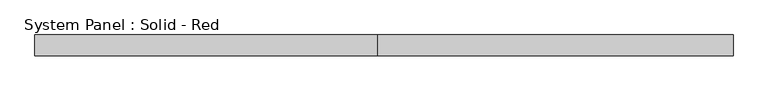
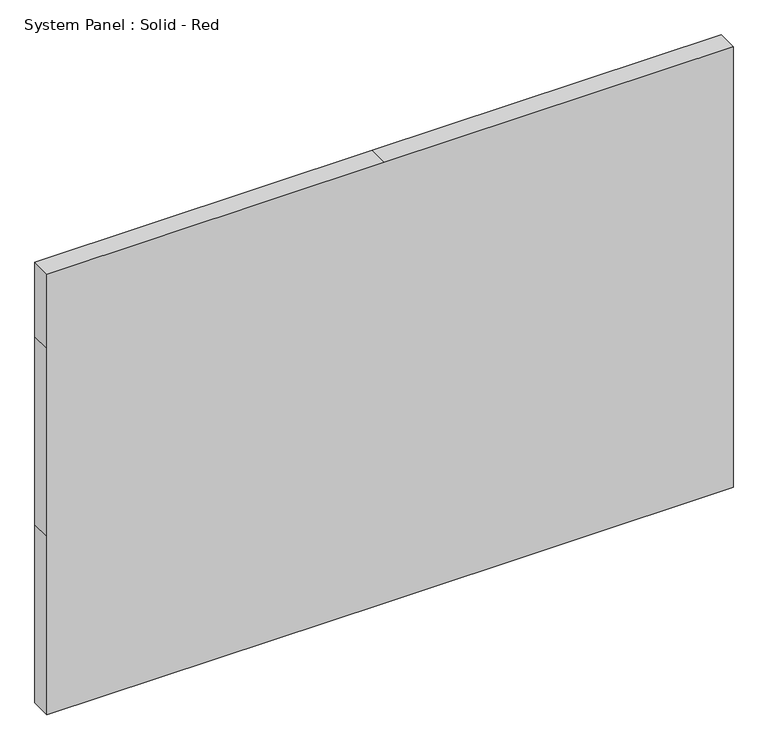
"""IFC4 building model written with IfcOpenShell, lengths in millimetres: plate geometry, System Panel : Solid - Red."""

import ifcopenshell
import ifcopenshell.guid

model = None  # the IFC model being written
_history = None  # IfcOwnerHistory: only IFC2X3 demands one
_inside = {}  # id of a spatial element -> (the spatial element, [elements in it])
_under = {}  # id of a project, library or spatial element -> (it, [spatial elements below it])
_declared = {}  # id of a project -> (the project, [libraries it declares])
_typed = {}  # id of a type object -> (the type object, [elements of that type])
_made_of = {}  # id of a material, layer set ... -> (it, [elements and type objects made of it])


def new_model(schema):
    """Start an empty IFC model of exactly this schema.

    Asked for "IFC4X3", IfcOpenShell would pick the latest addendum, in which some entities
    have other attributes; the version numbers below select the first issue.
    IFC2X3 requires an IfcOwnerHistory on every rooted entity: one is made here for all.
    """
    global model, _history
    if schema == "IFC4X3":
        model = ifcopenshell.file(schema_version=(4, 3, 0, 0))
    else:
        model = ifcopenshell.file(schema=schema)
    _inside.clear()
    _under.clear()
    _declared.clear()
    _typed.clear()
    _made_of.clear()
    _history = None
    if model.schema == "IFC2X3":
        org = make("IfcOrganization", Name="unknown")
        user = make(
            "IfcPersonAndOrganization",
            ThePerson=make("IfcPerson", FamilyName="unknown"),
            TheOrganization=org,
        )
        app = make(
            "IfcApplication",
            ApplicationDeveloper=org,
            Version="unknown",
            ApplicationFullName="unknown",
            ApplicationIdentifier="unknown",
        )
        _history = make(
            "IfcOwnerHistory",
            OwningUser=user,
            OwningApplication=app,
            ChangeAction="ADDED",
            CreationDate=0,
        )
    return model


def make(cls, **values):
    """One entity of the class cls with the attributes given. An attribute that is None is left unset."""
    return model.create_entity(
        cls, **{name: value for name, value in values.items() if value is not None}
    )


def rooted(cls, **values):
    """An entity with a GlobalId (a new one), such as an element, a storey or a relation."""
    return make(cls, GlobalId=ifcopenshell.guid.new(), OwnerHistory=_history, **values)


def si_unit(unit_type, name, prefix=None):
    """IfcSIUnit, for example si_unit("LENGTHUNIT", "METRE", prefix="MILLI")."""
    return make("IfcSIUnit", UnitType=unit_type, Prefix=prefix, Name=name)


def assignment(units):
    """IfcUnitAssignment: the units of a project."""
    return None if units is None else make("IfcUnitAssignment", Units=units)


def point(xyz):
    """IfcCartesianPoint."""
    return None if xyz is None else make("IfcCartesianPoint", Coordinates=xyz)


def direction(xyz):
    """IfcDirection."""
    return None if xyz is None else make("IfcDirection", DirectionRatios=xyz)


def frame(location, z_axis=None, x_axis=None):
    """IfcAxis2Placement3D, a coordinate frame: its origin and axes. An axis left out is left unset."""
    return make(
        "IfcAxis2Placement3D",
        Location=point(location),
        Axis=direction(z_axis),
        RefDirection=direction(x_axis),
    )


def origin():
    """The frame at (0, 0, 0) with its axes left unset."""
    return frame((0.0, 0.0, 0.0))


def place(relative_to, where):
    """IfcLocalPlacement: puts the frame where relative to a parent placement (None: the world)."""
    return make(
        "IfcLocalPlacement", PlacementRelTo=relative_to, RelativePlacement=where
    )


def context(
    kind, dimensions, precision=None, world=None, true_north=None, identifier=None
):
    """IfcGeometricRepresentationContext, for example the 3D "Model" context."""
    return make(
        "IfcGeometricRepresentationContext",
        ContextIdentifier=identifier,
        ContextType=kind,
        CoordinateSpaceDimension=dimensions,
        Precision=precision,
        WorldCoordinateSystem=world,
        TrueNorth=true_north,
    )


def project(units=None, contexts=None):
    """IfcProject with its units and contexts."""
    return rooted(
        "IfcProject",
        Name="project",
        RepresentationContexts=contexts,
        UnitsInContext=assignment(units),
    )


def spatial(cls, under=None, at=None, **own):
    """A site, building, storey or space (cls), placed at a placement, below another one or the project."""
    s = rooted(cls, ObjectPlacement=at, **own)
    if under is not None:
        _under.setdefault(under.id(), (under, []))[1].append(s)
    return s


def polyline(points):
    """IfcPolyline through the points."""
    return make("IfcPolyline", Points=[point(p) for p in points])


def outline(outer, holes=None, kind="AREA"):
    """IfcArbitraryClosedProfileDef: a profile drawn as a closed curve; with holes, ...WithVoids."""
    if holes is None:
        return make("IfcArbitraryClosedProfileDef", ProfileType=kind, OuterCurve=outer)
    return make(
        "IfcArbitraryProfileDefWithVoids",
        ProfileType=kind,
        OuterCurve=outer,
        InnerCurves=holes,
    )


def extrude(swept, where, along, depth):
    """IfcExtrudedAreaSolid: the profile swept, set in the frame where, extruded along a direction by depth."""
    return make(
        "IfcExtrudedAreaSolid",
        SweptArea=swept,
        Position=where,
        ExtrudedDirection=direction(along),
        Depth=depth,
    )


def shape(context_of_items, identifier, shape_type, items):
    """IfcShapeRepresentation: the items that make up one representation, for example the "Body"."""
    return make(
        "IfcShapeRepresentation",
        ContextOfItems=context_of_items,
        RepresentationIdentifier=identifier,
        RepresentationType=shape_type,
        Items=items,
    )


def source(mapping_origin, context_of_items, identifier, shape_type, items):
    """IfcRepresentationMap: a shape defined once, which mapped items show again and again."""
    return make(
        "IfcRepresentationMap",
        MappingOrigin=mapping_origin,
        MappedRepresentation=shape(context_of_items, identifier, shape_type, items),
    )


def transform(
    local_origin,
    x_axis=None,
    y_axis=None,
    z_axis=None,
    scale=None,
    scale2=None,
    scale3=None,
    uniform=True,
):
    """IfcCartesianTransformationOperator3D, or its non-uniform kind. x_axis, y_axis, z_axis: its Axis1, 2, 3."""
    if uniform:
        return make(
            "IfcCartesianTransformationOperator3D",
            Axis1=direction(x_axis),
            Axis2=direction(y_axis),
            LocalOrigin=point(local_origin),
            Scale=scale,
            Axis3=direction(z_axis),
        )
    return make(
        "IfcCartesianTransformationOperator3DnonUniform",
        Axis1=direction(x_axis),
        Axis2=direction(y_axis),
        LocalOrigin=point(local_origin),
        Scale=scale,
        Axis3=direction(z_axis),
        Scale2=scale2,
        Scale3=scale3,
    )


def mapped(mapping_source, mapping_target):
    """IfcMappedItem: shows the shape of a source again, moved by a transform."""
    return make(
        "IfcMappedItem", MappingSource=mapping_source, MappingTarget=mapping_target
    )


def made_of(thing, what):
    """Note that an element or type object is made of a material, layer set ...; save() writes the relation."""
    if what is not None:
        _made_of.setdefault(what.id(), (what, []))[1].append(thing)
    return thing


def element(
    cls,
    number,
    at=None,
    inside=None,
    cuts=None,
    type_object=None,
    material=None,
    context=None,
    identifier="Body",
    shape_type=None,
    held_by="IfcProductDefinitionShape",
    body=None,
    shapes=None,
    **own,
):
    """One element of the class cls, such as IfcWall. Its Tag is "e" and its number.

    at: its placement. inside: the storey or other place that contains it. cuts: it is an
    opening in that element (IfcRelVoidsElement). A single representation is given by context,
    identifier, shape_type and body (its items); several are given by shapes. held_by: the class
    of the entity that holds the representations. save() writes the other relations.
    """
    e = rooted(cls, Tag="e%d" % number, ObjectPlacement=at, **own)
    if body is not None:
        shapes = [shape(context, identifier, shape_type, body)]
    if shapes is not None:
        e.Representation = make(held_by, Representations=shapes)
    if inside is not None:
        _inside.setdefault(inside.id(), (inside, []))[1].append(e)
    if cuts is not None:
        rooted(
            "IfcRelVoidsElement", RelatingBuildingElement=cuts, RelatedOpeningElement=e
        )
    if type_object is not None:
        _typed.setdefault(type_object.id(), (type_object, []))[1].append(e)
    return made_of(e, material)


def aggregate(whole, parts):
    """IfcRelAggregates: a whole, such as a stair, and the parts it consists of."""
    return rooted("IfcRelAggregates", RelatingObject=whole, RelatedObjects=parts)


def save(model, path):
    """Write the relations noted so far, then the file.

    IfcRelAggregates (storeys below a building ...), IfcRelContainedInSpatialStructure (elements
    in a storey), IfcRelDefinesByType, IfcRelAssociatesMaterial and IfcRelDeclares: one each for
    every whole, place, type object, material and project.
    """
    for whole, parts in _under.values():
        aggregate(whole, parts)
    for where, things in _inside.values():
        rooted(
            "IfcRelContainedInSpatialStructure",
            RelatedElements=things,
            RelatingStructure=where,
        )
    for kind, things in _typed.values():
        rooted("IfcRelDefinesByType", RelatedObjects=things, RelatingType=kind)
    for what, things in _made_of.values():
        rooted("IfcRelAssociatesMaterial", RelatedObjects=things, RelatingMaterial=what)
    for by, libraries in _declared.values():
        rooted("IfcRelDeclares", RelatingContext=by, RelatedDefinitions=libraries)
    model.write(path)


def system_panel_solid_red_d6829c82(model_context):
    return source(origin(), model_context, "Body", "SweptSolid", [
        extrude(outline(polyline([(0.0, -1052.2857142), (0.0, -18.1428572), (0.0, 1052.2857142), (577.85, 1052.2857142), (1187.45, 1052.2857142), (1428.75, 1052.2857142), (1428.75, -18.1428572), (1428.75, -1052.2857142), (1187.45, -1052.2857142), (577.85, -1052.2857142), (0.0, -1052.2857142)])), frame((0.0, -19.05, 0.0), z_axis=(0.0, 1.0, 0.0), x_axis=(0.0, 0.0, 1.0)), (0.0, 0.0, 1.0), 63.5),
    ])


if __name__ == "__main__":
    model = new_model("IFC4")
    model_context = context("Model", 3, world=origin())
    ifc_project = project(units=[si_unit("LENGTHUNIT", "METRE", prefix="MILLI")], contexts=[model_context])
    site = spatial("IfcSite", under=ifc_project)
    building = spatial("IfcBuilding", under=site)
    placement = place(None, origin())
    system_panel_solid_red_shape = system_panel_solid_red_d6829c82(model_context)
    element("IfcPlate", 1, ObjectType="System Panel : Solid - Red", at=placement, inside=building, context=model_context, shape_type="MappedRepresentation", body=[
        mapped(system_panel_solid_red_shape, transform((0.0, 0.0, 0.0), x_axis=(1.0, 0.0, 0.0), y_axis=(0.0, 1.0, 0.0), z_axis=(0.0, 0.0, 1.0))),
    ])
    save(model, "model.ifc")
